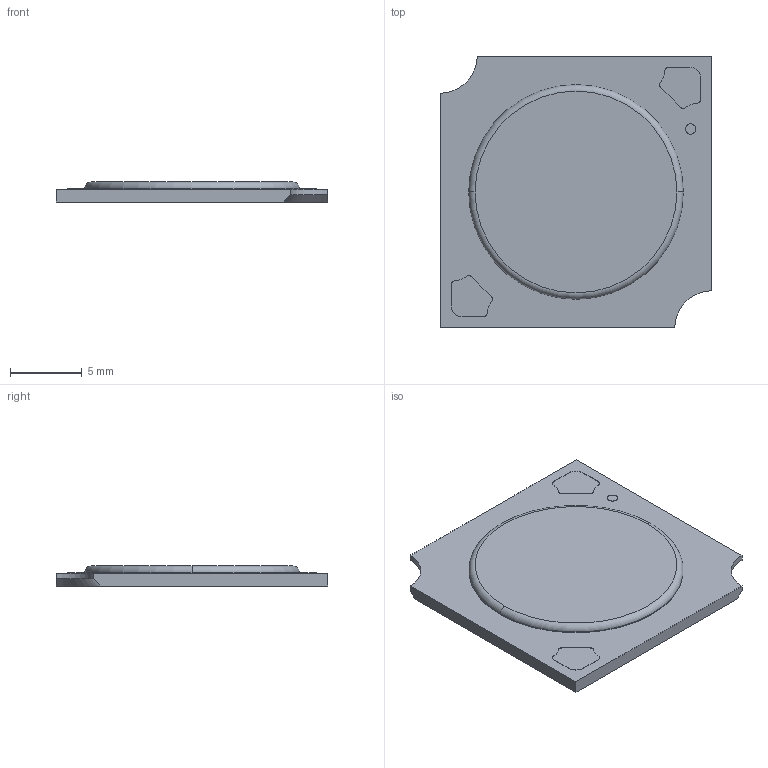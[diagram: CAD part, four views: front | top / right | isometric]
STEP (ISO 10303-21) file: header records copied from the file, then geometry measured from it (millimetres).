
FILE_DESCRIPTION((''),'2;1');
FILE_NAME('16208807_SLE-G7-LES13-MODUL','2018-08-23T10:00:48',('bernhard.fink'),(''),'CREO PARAMETRIC BY PTC INC, 2017380','CREO PARAMETRIC BY PTC INC, 2017380','');
FILE_SCHEMA(('AUTOMOTIVE_DESIGN { 1 0 10303 214 1 1 1 1 }'));
Length unit declared in the file: millimetre
Products named in the file (1): 16208807_SLE-G7-LES13-MODUL
Bounding box: 19 x 19 x 1.4 mm (x, y, z)
Volume: 400.9 mm3; surface area: 779.2 mm2
Topology: 1 solids, 1 shells, 40 faces, 102 edges, 68 vertices
Faces by surface type: cylinder 20, plane 16, cone 2, torus 2
Entity records: 2276 total; most frequent: DIRECTION 228, CARTESIAN_POINT 218, ORIENTED_EDGE 204, PRESENTATION_STYLE_ASSIGNMENT 142, STYLED_ITEM 103, CURVE_STYLE 102, EDGE_CURVE 102, AXIS2_PLACEMENT_3D 87
